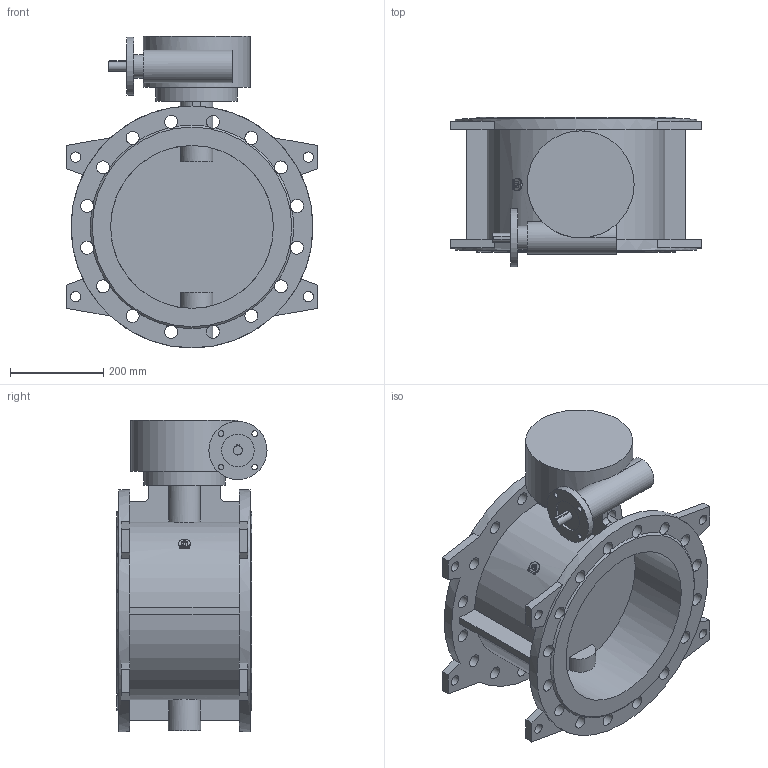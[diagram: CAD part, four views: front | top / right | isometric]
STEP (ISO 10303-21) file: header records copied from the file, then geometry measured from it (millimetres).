
FILE_DESCRIPTION(('STEP AP203'), '1');
FILE_NAME('Çàòâîð 023F.Z DN350 PN16_ð-ð_ôë', '', ('UNSPECIFIED'), ('UNSPECIFIED'), 'ASCON STEP Converter 1.6', 'ASCON Math Kernel', '');
FILE_SCHEMA(('CONFIG_CONTROL_DESIGN'));
Length unit declared in the file: millimetre
Bounding box: 540 x 322.5 x 670 mm (x, y, z)
Volume: 21291562.1 mm3; surface area: 1701633.8 mm2
Topology: 1 solids, 1 shells, 179 faces, 556 edges, 370 vertices
Faces by surface type: plane 95, cylinder 82, cone 2
Full cylindrical faces by diameter (mm): 12 x4, 14 x4, 18 x4, 20 x1, 22 x8, 28 x32, 50 x1, 70 x3, 125 x1, 175 x1, 230 x1, 350 x2, 520 x2
Entity records: 11342 total; most frequent: CARTESIAN_POINT 4911, DIRECTION 1037, ORIENTED_EDGE 972, EDGE_CURVE 486, AXIS2_PLACEMENT_3D 423, VERTEX_POINT 369, EDGE_LOOP 325, CIRCLE 244
